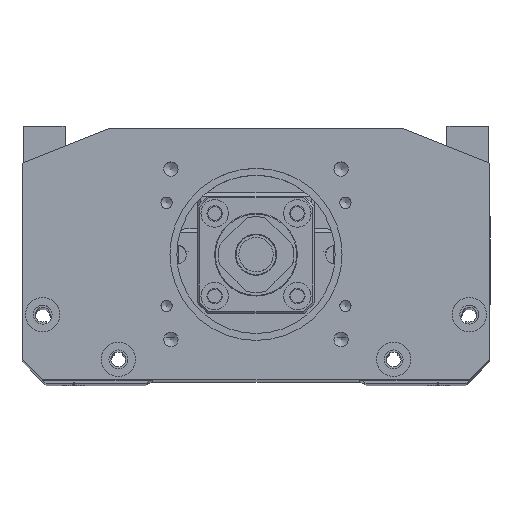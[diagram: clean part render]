
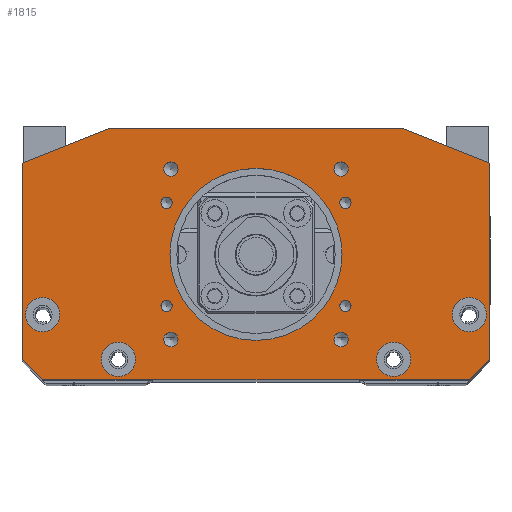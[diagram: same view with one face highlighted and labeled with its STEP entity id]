
A CAD part, top view. The second image highlights one B-rep face of the part: STEP entity #1815.
In plain terms, the highlighted planar face has unit normal (0, 0, 1).
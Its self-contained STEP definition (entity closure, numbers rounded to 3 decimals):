
#438=FACE_BOUND('',#3566,.T.);
#439=FACE_BOUND('',#3567,.T.);
#440=FACE_BOUND('',#3568,.T.);
#441=FACE_BOUND('',#3569,.T.);
#442=FACE_BOUND('',#3570,.T.);
#443=FACE_BOUND('',#3571,.T.);
#444=FACE_BOUND('',#3572,.T.);
#445=FACE_BOUND('',#3573,.T.);
#446=FACE_BOUND('',#3574,.T.);
#447=FACE_BOUND('',#3575,.T.);
#448=FACE_BOUND('',#3576,.T.);
#449=FACE_BOUND('',#3577,.T.);
#450=FACE_BOUND('',#3578,.T.);
#451=FACE_BOUND('',#3579,.T.);
#1104=PLANE('',#14274);
#1815=ADVANCED_FACE('9',(#438,#439,#440,#441,#442,#443,#444,#445,#446,#447,
#448,#449,#450,#451),#1104,.T.);
#3566=EDGE_LOOP('',(#6749));
#3567=EDGE_LOOP('',(#6750));
#3568=EDGE_LOOP('',(#6751));
#3569=EDGE_LOOP('',(#6752));
#3570=EDGE_LOOP('',(#6753));
#3571=EDGE_LOOP('',(#6754));
#3572=EDGE_LOOP('',(#6755));
#3573=EDGE_LOOP('',(#6756));
#3574=EDGE_LOOP('',(#6757));
#3575=EDGE_LOOP('',(#6758));
#3576=EDGE_LOOP('',(#6759));
#3577=EDGE_LOOP('',(#6760));
#3578=EDGE_LOOP('',(#6761));
#3579=EDGE_LOOP('',(#6762,#6763,#6764,#6765,#6766,#6767,#6768,#6769));
#4565=CIRCLE('',#14261,1.65);
#4566=CIRCLE('',#14262,1.65);
#4567=CIRCLE('',#14263,1.65);
#4568=CIRCLE('',#14264,1.65);
#4569=CIRCLE('',#14265,2.1);
#4570=CIRCLE('',#14266,2.1);
#4571=CIRCLE('',#14267,2.1);
#4572=CIRCLE('',#14268,2.1);
#4573=CIRCLE('',#14269,25.);
#4574=CIRCLE('',#14270,5.);
#4575=CIRCLE('',#14271,5.);
#4576=CIRCLE('',#14272,5.);
#4577=CIRCLE('',#14273,5.);
#6749=ORIENTED_EDGE('',*,*,#10934,.F.);
#6750=ORIENTED_EDGE('',*,*,#10935,.F.);
#6751=ORIENTED_EDGE('',*,*,#10936,.F.);
#6752=ORIENTED_EDGE('',*,*,#10937,.F.);
#6753=ORIENTED_EDGE('',*,*,#10938,.F.);
#6754=ORIENTED_EDGE('',*,*,#10939,.F.);
#6755=ORIENTED_EDGE('',*,*,#10940,.F.);
#6756=ORIENTED_EDGE('',*,*,#10941,.F.);
#6757=ORIENTED_EDGE('',*,*,#10942,.F.);
#6758=ORIENTED_EDGE('',*,*,#10943,.F.);
#6759=ORIENTED_EDGE('',*,*,#10944,.F.);
#6760=ORIENTED_EDGE('',*,*,#10945,.F.);
#6761=ORIENTED_EDGE('',*,*,#10946,.F.);
#6762=ORIENTED_EDGE('',*,*,#10038,.F.);
#6763=ORIENTED_EDGE('',*,*,#10904,.T.);
#6764=ORIENTED_EDGE('',*,*,#10947,.F.);
#6765=ORIENTED_EDGE('',*,*,#10907,.T.);
#6766=ORIENTED_EDGE('',*,*,#9930,.F.);
#6767=ORIENTED_EDGE('',*,*,#9983,.T.);
#6768=ORIENTED_EDGE('',*,*,#9999,.F.);
#6769=ORIENTED_EDGE('',*,*,#10014,.T.);
#8607=VERTEX_POINT('',#19437);
#8608=VERTEX_POINT('',#19439);
#8648=VERTEX_POINT('',#19540);
#8660=VERTEX_POINT('',#19571);
#8670=VERTEX_POINT('',#19599);
#8690=VERTEX_POINT('',#19645);
#9259=VERTEX_POINT('',#23653);
#9261=VERTEX_POINT('',#23659);
#9279=VERTEX_POINT('',#23716);
#9280=VERTEX_POINT('',#23718);
#9281=VERTEX_POINT('',#23720);
#9282=VERTEX_POINT('',#23722);
#9283=VERTEX_POINT('',#23724);
#9284=VERTEX_POINT('',#23726);
#9285=VERTEX_POINT('',#23728);
#9286=VERTEX_POINT('',#23730);
#9287=VERTEX_POINT('',#23732);
#9288=VERTEX_POINT('',#23734);
#9289=VERTEX_POINT('',#23736);
#9290=VERTEX_POINT('',#23738);
#9291=VERTEX_POINT('',#23740);
#9930=EDGE_CURVE('',#8607,#8608,#11640,.T.);
#9983=EDGE_CURVE('',#8607,#8648,#11683,.T.);
#9999=EDGE_CURVE('',#8660,#8648,#11697,.T.);
#10014=EDGE_CURVE('',#8660,#8670,#11710,.T.);
#10038=EDGE_CURVE('',#8690,#8670,#11732,.T.);
#10904=EDGE_CURVE('',#8690,#9259,#12178,.T.);
#10907=EDGE_CURVE('',#9261,#8608,#12181,.T.);
#10934=EDGE_CURVE('',#9279,#9279,#4565,.T.);
#10935=EDGE_CURVE('',#9280,#9280,#4566,.T.);
#10936=EDGE_CURVE('',#9281,#9281,#4567,.T.);
#10937=EDGE_CURVE('',#9282,#9282,#4568,.T.);
#10938=EDGE_CURVE('',#9283,#9283,#4569,.T.);
#10939=EDGE_CURVE('',#9284,#9284,#4570,.T.);
#10940=EDGE_CURVE('',#9285,#9285,#4571,.T.);
#10941=EDGE_CURVE('',#9286,#9286,#4572,.T.);
#10942=EDGE_CURVE('',#9287,#9287,#4573,.T.);
#10943=EDGE_CURVE('',#9288,#9288,#4574,.T.);
#10944=EDGE_CURVE('',#9289,#9289,#4575,.T.);
#10945=EDGE_CURVE('',#9290,#9290,#4576,.T.);
#10946=EDGE_CURVE('',#9291,#9291,#4577,.T.);
#10947=EDGE_CURVE('',#9261,#9259,#12195,.T.);
#11640=LINE('',#19438,#12583);
#11683=LINE('',#19541,#12626);
#11697=LINE('',#19572,#12640);
#11710=LINE('',#19600,#12653);
#11732=LINE('',#19646,#12675);
#12178=LINE('',#23652,#13121);
#12181=LINE('',#23658,#13124);
#12195=LINE('',#23741,#13138);
#12583=VECTOR('',#15187,1.);
#12626=VECTOR('',#15268,1.);
#12640=VECTOR('',#15292,1.);
#12653=VECTOR('',#15315,1.);
#12675=VECTOR('',#15345,1.);
#13121=VECTOR('',#17175,1.);
#13124=VECTOR('',#17180,1.);
#13138=VECTOR('',#17270,1.);
#14261=AXIS2_PLACEMENT_3D('',#23715,#17244,#17245);
#14262=AXIS2_PLACEMENT_3D('',#23717,#17246,#17247);
#14263=AXIS2_PLACEMENT_3D('',#23719,#17248,#17249);
#14264=AXIS2_PLACEMENT_3D('',#23721,#17250,#17251);
#14265=AXIS2_PLACEMENT_3D('',#23723,#17252,#17253);
#14266=AXIS2_PLACEMENT_3D('',#23725,#17254,#17255);
#14267=AXIS2_PLACEMENT_3D('',#23727,#17256,#17257);
#14268=AXIS2_PLACEMENT_3D('',#23729,#17258,#17259);
#14269=AXIS2_PLACEMENT_3D('',#23731,#17260,#17261);
#14270=AXIS2_PLACEMENT_3D('',#23733,#17262,#17263);
#14271=AXIS2_PLACEMENT_3D('',#23735,#17264,#17265);
#14272=AXIS2_PLACEMENT_3D('',#23737,#17266,#17267);
#14273=AXIS2_PLACEMENT_3D('',#23739,#17268,#17269);
#14274=AXIS2_PLACEMENT_3D('',#23742,#17271,#17272);
#15187=DIRECTION('',(0.,1.,0.));
#15268=DIRECTION('',(0.707,-0.707,0.));
#15292=DIRECTION('',(-1.,0.,0.));
#15315=DIRECTION('',(0.707,0.707,0.));
#15345=DIRECTION('',(0.,-1.,0.));
#17175=DIRECTION('',(-0.928,0.371,0.));
#17180=DIRECTION('',(-0.928,-0.371,0.));
#17244=DIRECTION('',(0.,0.,1.));
#17245=DIRECTION('',(1.,0.,0.));
#17246=DIRECTION('',(0.,0.,1.));
#17247=DIRECTION('',(1.,0.,0.));
#17248=DIRECTION('',(0.,0.,1.));
#17249=DIRECTION('',(1.,0.,0.));
#17250=DIRECTION('',(0.,0.,1.));
#17251=DIRECTION('',(1.,0.,0.));
#17252=DIRECTION('',(0.,0.,1.));
#17253=DIRECTION('',(1.,0.,0.));
#17254=DIRECTION('',(0.,0.,1.));
#17255=DIRECTION('',(1.,0.,0.));
#17256=DIRECTION('',(0.,0.,1.));
#17257=DIRECTION('',(1.,0.,0.));
#17258=DIRECTION('',(0.,0.,1.));
#17259=DIRECTION('',(1.,0.,0.));
#17260=DIRECTION('',(0.,0.,1.));
#17261=DIRECTION('',(1.,0.,0.));
#17262=DIRECTION('',(0.,0.,1.));
#17263=DIRECTION('',(1.,0.,0.));
#17264=DIRECTION('',(0.,0.,1.));
#17265=DIRECTION('',(1.,0.,0.));
#17266=DIRECTION('',(0.,0.,1.));
#17267=DIRECTION('',(1.,0.,0.));
#17268=DIRECTION('',(0.,0.,1.));
#17269=DIRECTION('',(1.,0.,0.));
#17270=DIRECTION('',(1.,0.,0.));
#17271=DIRECTION('',(0.,0.,1.));
#17272=DIRECTION('',(-1.,0.,0.));
#19437=CARTESIAN_POINT('',(-68.,6.,180.));
#19438=CARTESIAN_POINT('',(-68.,0.,180.));
#19439=CARTESIAN_POINT('',(-68.,63.,180.));
#19540=CARTESIAN_POINT('',(-62.,0.,180.));
#19541=CARTESIAN_POINT('',(-49.25,-12.75,180.));
#19571=CARTESIAN_POINT('',(62.,0.,180.));
#19572=CARTESIAN_POINT('',(68.,0.,180.));
#19599=CARTESIAN_POINT('',(68.,6.,180.));
#19600=CARTESIAN_POINT('',(49.25,-12.75,180.));
#19645=CARTESIAN_POINT('',(68.,63.,180.));
#19646=CARTESIAN_POINT('',(68.,0.,180.));
#23652=CARTESIAN_POINT('',(18.517,82.793,180.));
#23653=CARTESIAN_POINT('',(43.,73.,180.));
#23658=CARTESIAN_POINT('',(-18.517,82.793,180.));
#23659=CARTESIAN_POINT('',(-43.,73.,180.));
#23715=CARTESIAN_POINT('',(25.981,51.5,180.));
#23716=CARTESIAN_POINT('',(27.631,51.5,180.));
#23717=CARTESIAN_POINT('',(25.981,21.5,180.));
#23718=CARTESIAN_POINT('',(27.631,21.5,180.));
#23719=CARTESIAN_POINT('',(-25.981,21.5,180.));
#23720=CARTESIAN_POINT('',(-24.331,21.5,180.));
#23721=CARTESIAN_POINT('',(-25.981,51.5,180.));
#23722=CARTESIAN_POINT('',(-24.331,51.5,180.));
#23723=CARTESIAN_POINT('',(-24.749,61.249,180.));
#23724=CARTESIAN_POINT('',(-22.649,61.249,180.));
#23725=CARTESIAN_POINT('',(24.749,61.249,180.));
#23726=CARTESIAN_POINT('',(26.849,61.249,180.));
#23727=CARTESIAN_POINT('',(24.749,11.751,180.));
#23728=CARTESIAN_POINT('',(26.849,11.751,180.));
#23729=CARTESIAN_POINT('',(-24.749,11.751,180.));
#23730=CARTESIAN_POINT('',(-22.649,11.751,180.));
#23731=CARTESIAN_POINT('',(0.,36.5,180.));
#23732=CARTESIAN_POINT('',(25.,36.5,180.));
#23733=CARTESIAN_POINT('',(-62.,19.,180.));
#23734=CARTESIAN_POINT('',(-57.,19.,180.));
#23735=CARTESIAN_POINT('',(62.,19.,180.));
#23736=CARTESIAN_POINT('',(67.,19.,180.));
#23737=CARTESIAN_POINT('',(-40.,6.,180.));
#23738=CARTESIAN_POINT('',(-35.,6.,180.));
#23739=CARTESIAN_POINT('',(40.,6.,180.));
#23740=CARTESIAN_POINT('',(45.,6.,180.));
#23741=CARTESIAN_POINT('',(68.,73.,180.));
#23742=CARTESIAN_POINT('',(0.,36.5,180.));
